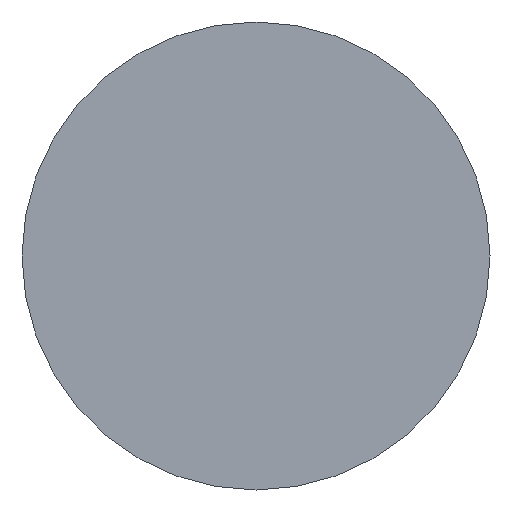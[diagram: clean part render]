
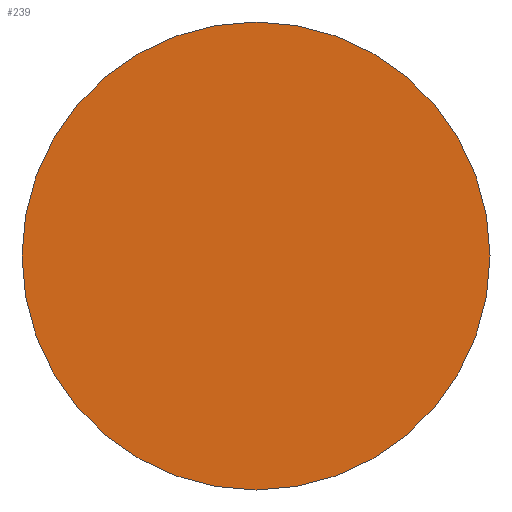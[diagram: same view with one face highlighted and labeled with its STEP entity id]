
A CAD part, left-side view. The second image highlights one B-rep face of the part: STEP entity #239.
In plain terms, the highlighted planar face has unit normal (-1, 0, 0).
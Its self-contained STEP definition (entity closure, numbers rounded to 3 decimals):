
#2 = AXIS2_PLACEMENT_3D ( 'NONE', #211, #248, #214 ) ;
#28 = AXIS2_PLACEMENT_3D ( 'NONE', #106, #147, #144 ) ;
#38 = CIRCLE ( 'NONE', #28, 8. ) ;
#81 = VERTEX_POINT ( 'NONE', #140 ) ;
#93 = VERTEX_POINT ( 'NONE', #162 ) ;
#95 = EDGE_LOOP ( 'NONE', ( #163, #249 ) ) ;
#104 = CIRCLE ( 'NONE', #199, 8. ) ;
#106 = CARTESIAN_POINT ( 'NONE',  ( 0., 0., 0. ) ) ;
#140 = CARTESIAN_POINT ( 'NONE',  ( 0., -8., 0. ) ) ;
#144 = DIRECTION ( 'NONE',  ( 0., 1., 0. ) ) ;
#147 = DIRECTION ( 'NONE',  ( 1., 0., 0. ) ) ;
#162 = CARTESIAN_POINT ( 'NONE',  ( 0., 8., 0. ) ) ;
#163 = ORIENTED_EDGE ( 'NONE', *, *, #193, .F. ) ;
#177 = CARTESIAN_POINT ( 'NONE',  ( 0., 0., 0. ) ) ;
#183 = DIRECTION ( 'NONE',  ( 1., 0., 0. ) ) ;
#184 = DIRECTION ( 'NONE',  ( 0., 1., 0. ) ) ;
#193 = EDGE_CURVE ( 'NONE', #93, #81, #104, .T. ) ;
#199 = AXIS2_PLACEMENT_3D ( 'NONE', #177, #183, #184 ) ;
#202 = FACE_OUTER_BOUND ( 'NONE', #95, .T. ) ;
#211 = CARTESIAN_POINT ( 'NONE',  ( 0., 0., 0. ) ) ;
#214 = DIRECTION ( 'NONE',  ( 0., -1., 0. ) ) ;
#239 = ADVANCED_FACE ( 'NONE', ( #202 ), #267, .T. ) ;
#248 = DIRECTION ( 'NONE',  ( -1., 0., 0. ) ) ;
#249 = ORIENTED_EDGE ( 'NONE', *, *, #258, .F. ) ;
#258 = EDGE_CURVE ( 'NONE', #81, #93, #38, .T. ) ;
#267 = PLANE ( 'NONE',  #2 ) ;
